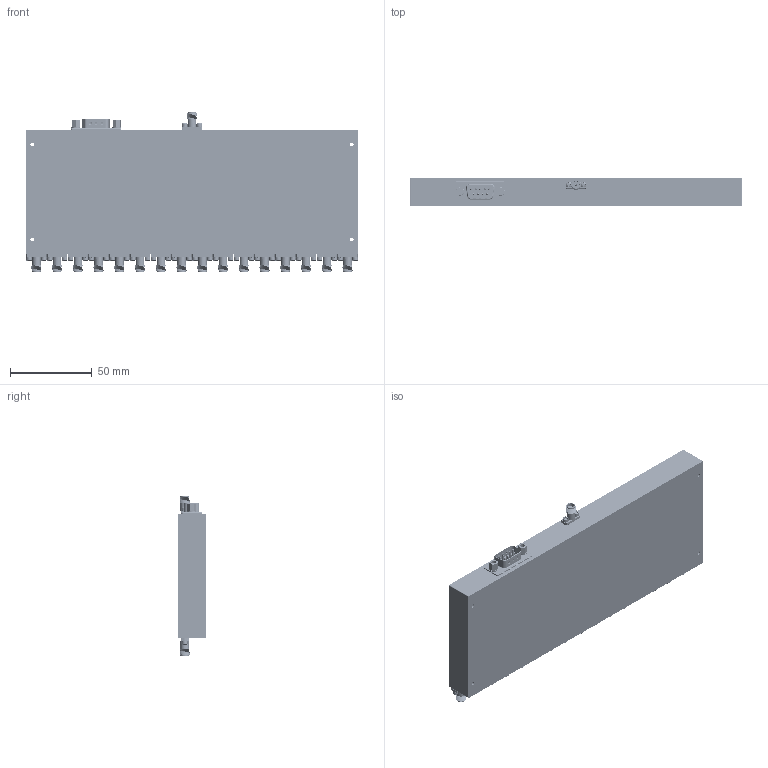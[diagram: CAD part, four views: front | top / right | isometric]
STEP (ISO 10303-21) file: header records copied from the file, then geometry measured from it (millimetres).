
FILE_DESCRIPTION (( 'STEP AP214' ), '1' );
FILE_NAME ('26935069 - Website Assembly STEP.STEP', '2026-09-22T15:15:20', ( '' ), ( '' ), 'SwSTEP 2.0', 'SolidWorks 2025', '' );
FILE_SCHEMA (( 'AUTOMOTIVE_DESIGN' ));
Length unit declared in the file: inch
Products named in the file (1): 26935069 - Website Assembly STEP
Bounding box: 203.2 x 17.07 x 98.04 mm (x, y, z)
Surface area: 55447.5 mm2 (no closed solid volume)
Topology: 0 solids, 134 shells, 3424 faces, 7633 edges, 4615 vertices
Faces by surface type: plane 1484, cylinder 818, torus 467, bspline 244, cone 232, sphere 179
Full cylindrical faces by diameter (mm): 0.381 x17, 0.635 x17, 1.016 x17, 1.04 x18, 1.14 x9, 1.168 x9, 1.27 x17, 1.676 x9, 1.981 x1, 2.032 x16, 2.184 x68, 2.261 x4, 2.489 x17, 2.591 x34, 2.845 x6, 3.1 x2, 3.302 x17, 3.5 x2, 3.556 x34, 4.191 x34, 4.597 x17, 5.283 x34
Entity records: 108497 total; most frequent: CARTESIAN_POINT 37778, DIRECTION 15160, ORIENTED_EDGE 13070, EDGE_CURVE 6535, AXIS2_PLACEMENT_3D 6341, EDGE_LOOP 4587, VERTEX_POINT 4462, FACE_OUTER_BOUND 4188
